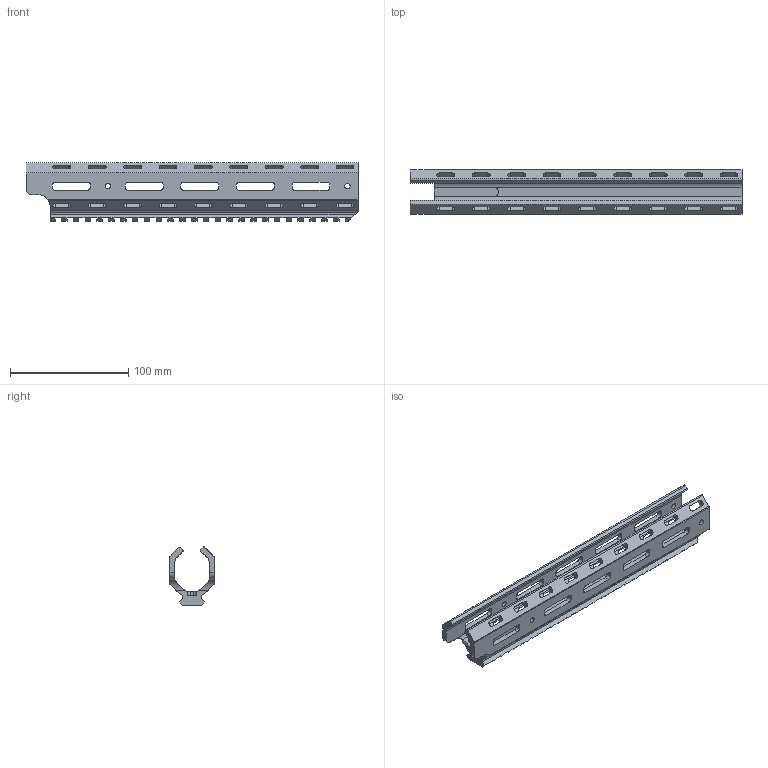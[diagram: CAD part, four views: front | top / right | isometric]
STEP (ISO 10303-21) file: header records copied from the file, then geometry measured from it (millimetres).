
FILE_DESCRIPTION(/* description */ ('Unknown'),/* implementation_level */ '2;1');
FILE_NAME(/* name */ 'Łoże Taktyczne Lite',/* time_stamp */ '2025-07-28T13:29:22+02:00',/* author */ ('Unknown'),/* organization */ ('Unknown'),/* preprocessor_version */ 'ST-DEVELOPER v16.7',/* originating_system */ 'DEX',/* authorisation */ $);
FILE_SCHEMA (('AUTOMOTIVE_DESIGN {1 0 10303 214 3 1 1}'));
Length unit declared in the file: millimetre
Products named in the file (1): Loze Taktyczne Lite
Bounding box: 280.71 x 37.55 x 49.39 mm (x, y, z)
Volume: 132680.5 mm3; surface area: 68298.1 mm2
Topology: 1 solids, 1 shells, 581 faces, 1741 edges, 1162 vertices
Faces by surface type: plane 369, cylinder 212
Full cylindrical faces by diameter (mm): 4.5 x4
Entity records: 23839 total; most frequent: CARTESIAN_POINT 3502, ORIENTED_EDGE 3466, DIRECTION 3313, EDGE_CURVE 1733, LINE 1301, VECTOR 1301, VERTEX_POINT 1158, AXIS2_PLACEMENT_3D 1006
